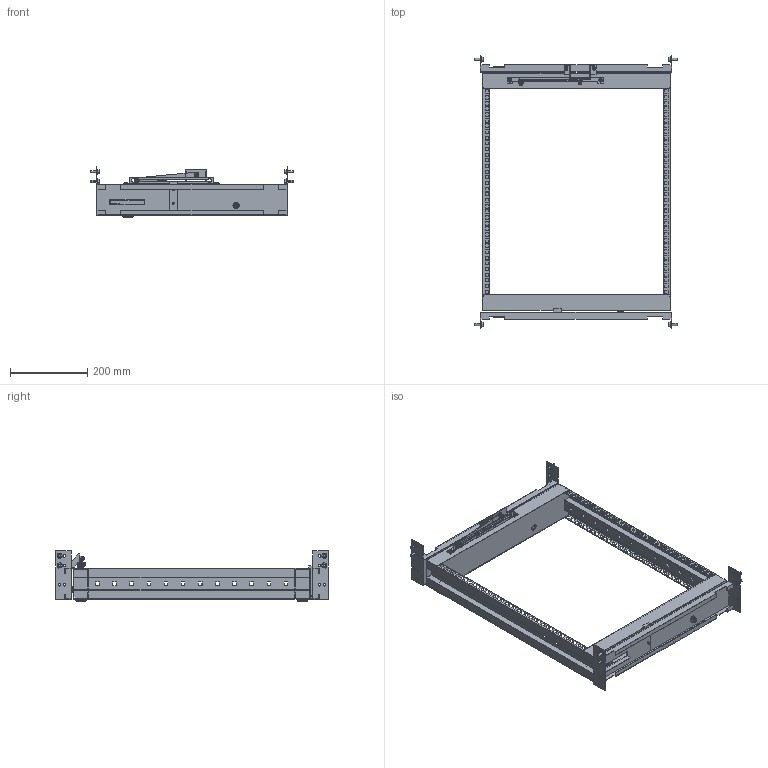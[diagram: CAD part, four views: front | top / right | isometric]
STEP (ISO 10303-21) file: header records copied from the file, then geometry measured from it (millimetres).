
FILE_DESCRIPTION(('Open CASCADE Model'),'2;1');
FILE_NAME('Open CASCADE Shape Model','2025-03-24T10:14:29',('Author'),( 'Open CASCADE'),'Open CASCADE STEP processor 7.8','Open CASCADE 7.8' ,'Unknown');
FILE_SCHEMA(('AUTOMOTIVE_DESIGN { 1 0 10303 214 1 1 1 1 }'));
Length unit declared in the file: millimetre
Products named in the file (28): Compound1; Compound2; Solid1; Solid2; Compound3; Solid3; Solid4; Solid5; Solid6; Solid7; Solid8; Solid9; Solid10; Solid11; Solid12; Solid13; Solid14; Compound4; Solid15; Solid16; Solid17; Solid18; Compound5; Solid19; Solid20; Solid21; Solid22; Solid23
Assembly tree (44 placements, depth 3):
  Compound1
    Compound2
      Solid1
      Solid2
    Compound3
      Solid3
      Solid2
    Solid4  x2
    Solid5  x2
    Solid6
    Solid7
    Solid8
    Solid9
    Solid10
    Solid11  x2
    Solid12  x4
    Solid13  x8
    Solid14
    Compound4
      Solid15
      Solid16
    Solid17
    Solid18
    Compound5
      Solid19  x2
      Solid20
      Solid21  x2
      Solid22
      Solid23  x2
Bounding box: 526 x 707.5 x 130 mm (x, y, z)
Volume: 945119.1 mm3; surface area: 1137131.2 mm2
Topology: 40 solids, 58 shells, 3008 faces, 8481 edges, 5543 vertices
Faces by surface type: plane 1798, cylinder 594, cone 222, bspline 180, torus 156, sphere 58
Entity records: 62103 total; most frequent: CARTESIAN_POINT 16934, ORIENTED_EDGE 9426, DIRECTION 8667, EDGE_CURVE 4883, LINE 3411, VECTOR 3411, VERTEX_POINT 3228, AXIS2_PLACEMENT_3D 2628
